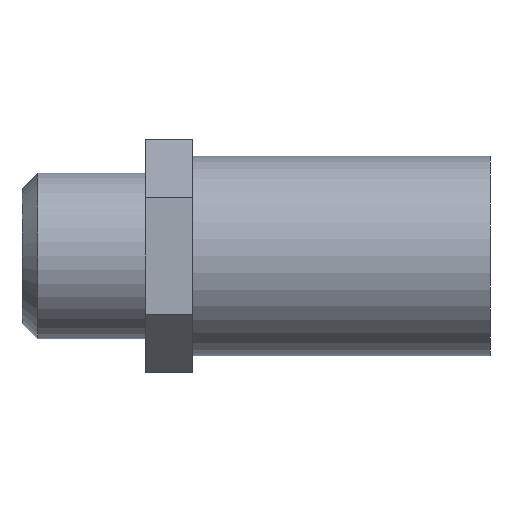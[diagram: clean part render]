
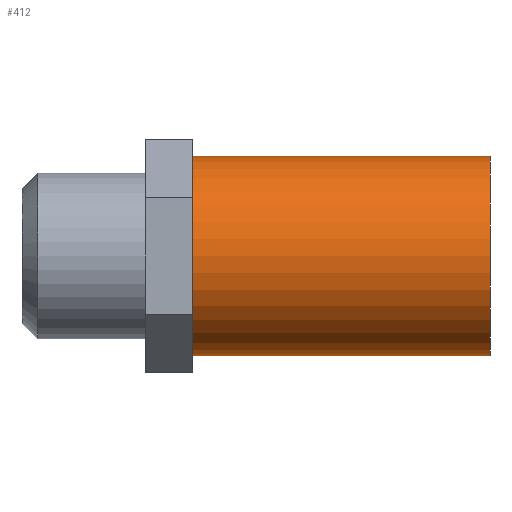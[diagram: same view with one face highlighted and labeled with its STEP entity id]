
A CAD part, front view. The second image highlights one B-rep face of the part: STEP entity #412.
In plain terms, the highlighted cylindrical face has radius 13.399 mm (diameter 26.797 mm), a partial arc.
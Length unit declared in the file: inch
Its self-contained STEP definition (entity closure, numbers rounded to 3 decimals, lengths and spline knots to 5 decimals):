
#47 = CARTESIAN_POINT ( 'NONE',  ( 0., 0., 0.5275 ) ) ;
#60 = DIRECTION ( 'NONE',  ( 1., 0., 0. ) ) ;
#120 = EDGE_CURVE ( 'NONE', #448, #495, #321, .T. ) ;
#121 = EDGE_CURVE ( 'NONE', #508, #469, #233, .T. ) ;
#123 = EDGE_CURVE ( 'NONE', #448, #508, #228, .T. ) ;
#125 = EDGE_CURVE ( 'NONE', #495, #469, #323, .T. ) ;
#146 = DIRECTION ( 'NONE',  ( 0., 0., -1. ) ) ;
#148 = CARTESIAN_POINT ( 'NONE',  ( 0., 0., 0. ) ) ;
#149 = DIRECTION ( 'NONE',  ( 1., 0., 0. ) ) ;
#150 = CARTESIAN_POINT ( 'NONE',  ( -1.57, 0., 0.5275 ) ) ;
#155 = CARTESIAN_POINT ( 'NONE',  ( 0., 0., -0.5275 ) ) ;
#165 = CARTESIAN_POINT ( 'NONE',  ( 0., 0., 0.5275 ) ) ;
#166 = CARTESIAN_POINT ( 'NONE',  ( -1.57, 0., -0.5275 ) ) ;
#205 = AXIS2_PLACEMENT_3D ( 'NONE', #148, #149, #146 ) ;
#211 = AXIS2_PLACEMENT_3D ( 'NONE', #337, #335, #338 ) ;
#212 = AXIS2_PLACEMENT_3D ( 'NONE', #394, #392, #388 ) ;
#228 = CIRCLE ( 'NONE', #212, 0.5275 ) ;
#233 = LINE ( 'NONE', #397, #303 ) ;
#253 = CYLINDRICAL_SURFACE ( 'NONE', #205, 0.5275 ) ;
#254 = FACE_OUTER_BOUND ( 'NONE', #438, .T. ) ;
#256 = VECTOR ( 'NONE', #60, 39.37008 ) ;
#303 = VECTOR ( 'NONE', #386, 39.37008 ) ;
#321 = LINE ( 'NONE', #47, #256 ) ;
#323 = CIRCLE ( 'NONE', #211, 0.5275 ) ;
#335 = DIRECTION ( 'NONE',  ( 1., 0., 0. ) ) ;
#337 = CARTESIAN_POINT ( 'NONE',  ( 0., 0., 0. ) ) ;
#338 = DIRECTION ( 'NONE',  ( 0., 0., -1. ) ) ;
#386 = DIRECTION ( 'NONE',  ( 1., 0., 0. ) ) ;
#388 = DIRECTION ( 'NONE',  ( 0., 0., -1. ) ) ;
#392 = DIRECTION ( 'NONE',  ( 1., 0., 0. ) ) ;
#394 = CARTESIAN_POINT ( 'NONE',  ( -1.57, 0., 0. ) ) ;
#397 = CARTESIAN_POINT ( 'NONE',  ( 0., 0., -0.5275 ) ) ;
#412 = ADVANCED_FACE ( 'NONE', ( #254 ), #253, .T. ) ;
#427 = ORIENTED_EDGE ( 'NONE', *, *, #123, .T. ) ;
#438 = EDGE_LOOP ( 'NONE', ( #454, #427, #513, #465 ) ) ;
#448 = VERTEX_POINT ( 'NONE', #150 ) ;
#454 = ORIENTED_EDGE ( 'NONE', *, *, #120, .F. ) ;
#465 = ORIENTED_EDGE ( 'NONE', *, *, #125, .F. ) ;
#469 = VERTEX_POINT ( 'NONE', #155 ) ;
#495 = VERTEX_POINT ( 'NONE', #165 ) ;
#508 = VERTEX_POINT ( 'NONE', #166 ) ;
#513 = ORIENTED_EDGE ( 'NONE', *, *, #121, .T. ) ;
